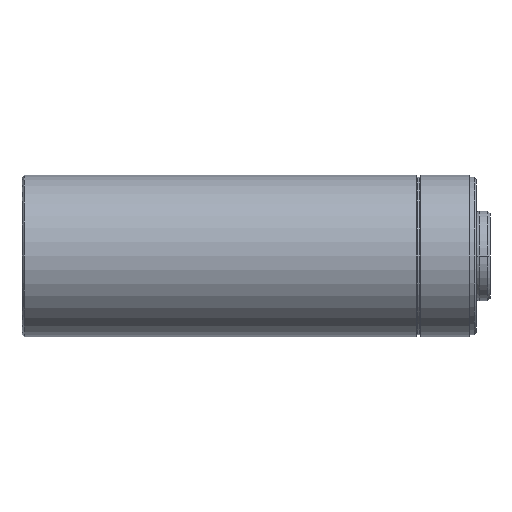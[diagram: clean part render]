
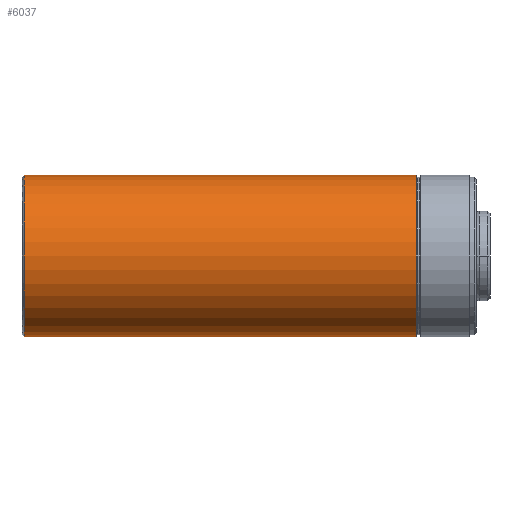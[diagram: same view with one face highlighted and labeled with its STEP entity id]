
A CAD part, front view. The second image highlights one B-rep face of the part: STEP entity #6037.
In plain terms, the highlighted cylindrical face has radius 56.959 mm (diameter 113.919 mm), a partial arc.
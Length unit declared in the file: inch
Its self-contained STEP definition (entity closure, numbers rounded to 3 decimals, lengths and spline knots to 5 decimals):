
#1174=CARTESIAN_POINT('',(-12.57,0.,0.));
#1175=DIRECTION('',(1.,0.,0.));
#1176=DIRECTION('',(0.,0.,1.));
#1177=AXIS2_PLACEMENT_3D('',#1174,#1175,#1176);
#1179=DIRECTION('',(1.,0.,0.));
#1180=VECTOR('',#1179,10.905);
#1181=CARTESIAN_POINT('',(-12.57,0.,2.2425));
#1182=LINE('',#1181,#1180);
#1183=DIRECTION('',(1.,0.,0.));
#1184=VECTOR('',#1183,10.905);
#1185=CARTESIAN_POINT('',(-12.57,0.,-2.2425));
#1186=LINE('',#1185,#1184);
#1187=CARTESIAN_POINT('',(-1.665,0.,0.));
#1188=DIRECTION('',(1.,0.,0.));
#1189=DIRECTION('',(0.,0.,1.));
#1190=AXIS2_PLACEMENT_3D('',#1187,#1188,#1189);
#3878=CARTESIAN_POINT('',(-1.665,0.,2.2425));
#3879=CARTESIAN_POINT('',(-1.665,0.,-2.2425));
#3880=VERTEX_POINT('',#3878);
#3881=VERTEX_POINT('',#3879);
#4054=CARTESIAN_POINT('',(-12.57,0.,-2.2425));
#4055=CARTESIAN_POINT('',(-12.57,0.,2.2425));
#4056=VERTEX_POINT('',#4054);
#4057=VERTEX_POINT('',#4055);
#6025=CARTESIAN_POINT('',(0.6315,0.,0.));
#6026=DIRECTION('',(-1.,0.,0.));
#6027=DIRECTION('',(0.,0.,-1.));
#6028=AXIS2_PLACEMENT_3D('',#6025,#6026,#6027);
#6029=CYLINDRICAL_SURFACE('',#6028,2.2425);
#6030=ORIENTED_EDGE('',*,*,#6016,.F.);
#6031=ORIENTED_EDGE('',*,*,#5975,.T.);
#6033=ORIENTED_EDGE('',*,*,#6032,.T.);
#6034=ORIENTED_EDGE('',*,*,#5971,.F.);
#6035=EDGE_LOOP('',(#6030,#6031,#6033,#6034));
#6036=FACE_OUTER_BOUND('',#6035,.F.);
#6037=ADVANCED_FACE('',(#6036),#6029,.T.);
#1178=CIRCLE('',#1177,2.2425);
#1191=CIRCLE('',#1190,2.2425);
#5971=EDGE_CURVE('',#4056,#3881,#1186,.T.);
#5975=EDGE_CURVE('',#4057,#3880,#1182,.T.);
#6016=EDGE_CURVE('',#4057,#4056,#1178,.T.);
#6032=EDGE_CURVE('',#3880,#3881,#1191,.T.);
